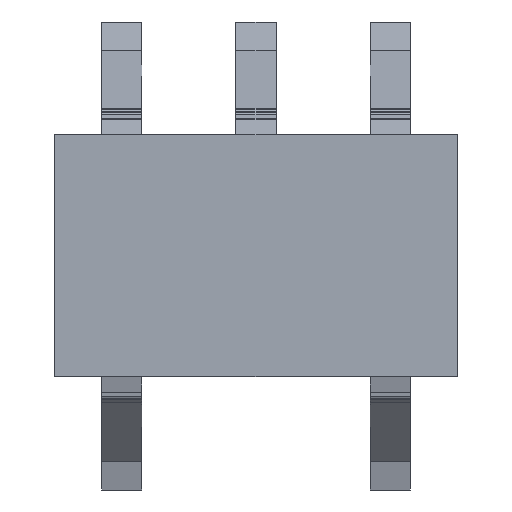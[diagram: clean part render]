
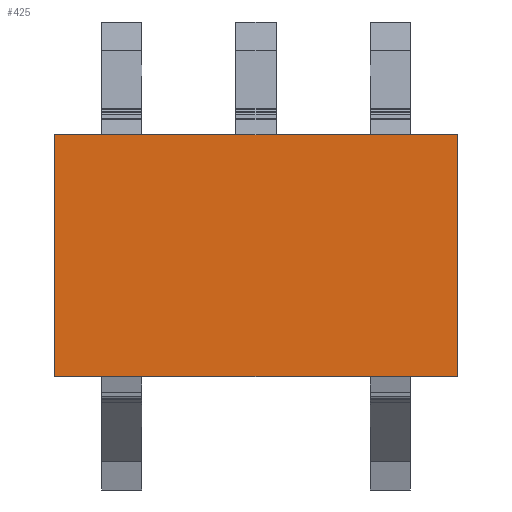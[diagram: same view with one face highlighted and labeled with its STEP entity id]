
A CAD part, top view. The second image highlights one B-rep face of the part: STEP entity #425.
In plain terms, the highlighted planar face has unit normal (0, 0, 1).
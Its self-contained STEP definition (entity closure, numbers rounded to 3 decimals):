
#24 = VERTEX_POINT('',#25);
#25 = CARTESIAN_POINT('',(0.,-0.9,1.3));
#32 = PLANE('',#33);
#33 = AXIS2_PLACEMENT_3D('',#34,#35,#36);
#34 = CARTESIAN_POINT('',(0.,-0.9,0.15));
#35 = DIRECTION('',(1.,0.,0.));
#36 = DIRECTION('',(0.,0.,1.));
#44 = PLANE('',#45);
#45 = AXIS2_PLACEMENT_3D('',#46,#47,#48);
#46 = CARTESIAN_POINT('',(0.,-0.9,0.15));
#47 = DIRECTION('',(0.,1.,0.));
#48 = DIRECTION('',(0.,0.,1.));
#85 = VERTEX_POINT('',#86);
#86 = CARTESIAN_POINT('',(0.,0.9,1.3));
#100 = PLANE('',#101);
#101 = AXIS2_PLACEMENT_3D('',#102,#103,#104);
#102 = CARTESIAN_POINT('',(0.,0.9,0.15));
#103 = DIRECTION('',(0.,1.,0.));
#104 = DIRECTION('',(0.,0.,1.));
#112 = EDGE_CURVE('',#24,#85,#113,.T.);
#113 = SURFACE_CURVE('',#114,(#118,#125),.PCURVE_S1.);
#114 = LINE('',#115,#116);
#115 = CARTESIAN_POINT('',(0.,-0.9,1.3));
#116 = VECTOR('',#117,1.);
#117 = DIRECTION('',(0.,1.,0.));
#118 = PCURVE('',#32,#119);
#119 = DEFINITIONAL_REPRESENTATION('',(#120),#124);
#120 = LINE('',#121,#122);
#121 = CARTESIAN_POINT('',(1.15,0.));
#122 = VECTOR('',#123,1.);
#123 = DIRECTION('',(0.,-1.));
#124 = ( GEOMETRIC_REPRESENTATION_CONTEXT(2) 
PARAMETRIC_REPRESENTATION_CONTEXT() REPRESENTATION_CONTEXT('2D SPACE',''
  ) );
#125 = PCURVE('',#126,#131);
#126 = PLANE('',#127);
#127 = AXIS2_PLACEMENT_3D('',#128,#129,#130);
#128 = CARTESIAN_POINT('',(0.,-0.9,1.3));
#129 = DIRECTION('',(0.,0.,1.));
#130 = DIRECTION('',(1.,0.,0.));
#131 = DEFINITIONAL_REPRESENTATION('',(#132),#136);
#132 = LINE('',#133,#134);
#133 = CARTESIAN_POINT('',(0.,0.));
#134 = VECTOR('',#135,1.);
#135 = DIRECTION('',(0.,1.));
#136 = ( GEOMETRIC_REPRESENTATION_CONTEXT(2) 
PARAMETRIC_REPRESENTATION_CONTEXT() REPRESENTATION_CONTEXT('2D SPACE',''
  ) );
#165 = EDGE_CURVE('',#24,#166,#168,.T.);
#166 = VERTEX_POINT('',#167);
#167 = CARTESIAN_POINT('',(3.,-0.9,1.3));
#168 = SURFACE_CURVE('',#169,(#173,#180),.PCURVE_S1.);
#169 = LINE('',#170,#171);
#170 = CARTESIAN_POINT('',(0.,-0.9,1.3));
#171 = VECTOR('',#172,1.);
#172 = DIRECTION('',(1.,0.,0.));
#173 = PCURVE('',#44,#174);
#174 = DEFINITIONAL_REPRESENTATION('',(#175),#179);
#175 = LINE('',#176,#177);
#176 = CARTESIAN_POINT('',(1.15,0.));
#177 = VECTOR('',#178,1.);
#178 = DIRECTION('',(0.,1.));
#179 = ( GEOMETRIC_REPRESENTATION_CONTEXT(2) 
PARAMETRIC_REPRESENTATION_CONTEXT() REPRESENTATION_CONTEXT('2D SPACE',''
  ) );
#180 = PCURVE('',#126,#181);
#181 = DEFINITIONAL_REPRESENTATION('',(#182),#186);
#182 = LINE('',#183,#184);
#183 = CARTESIAN_POINT('',(0.,0.));
#184 = VECTOR('',#185,1.);
#185 = DIRECTION('',(1.,0.));
#186 = ( GEOMETRIC_REPRESENTATION_CONTEXT(2) 
PARAMETRIC_REPRESENTATION_CONTEXT() REPRESENTATION_CONTEXT('2D SPACE',''
  ) );
#202 = PLANE('',#203);
#203 = AXIS2_PLACEMENT_3D('',#204,#205,#206);
#204 = CARTESIAN_POINT('',(3.,-0.9,0.15));
#205 = DIRECTION('',(1.,0.,0.));
#206 = DIRECTION('',(0.,0.,1.));
#425 = ADVANCED_FACE('',(#426),#126,.T.);
#426 = FACE_BOUND('',#427,.T.);
#427 = EDGE_LOOP('',(#428,#429,#430,#453));
#428 = ORIENTED_EDGE('',*,*,#112,.F.);
#429 = ORIENTED_EDGE('',*,*,#165,.T.);
#430 = ORIENTED_EDGE('',*,*,#431,.T.);
#431 = EDGE_CURVE('',#166,#432,#434,.T.);
#432 = VERTEX_POINT('',#433);
#433 = CARTESIAN_POINT('',(3.,0.9,1.3));
#434 = SURFACE_CURVE('',#435,(#439,#446),.PCURVE_S1.);
#435 = LINE('',#436,#437);
#436 = CARTESIAN_POINT('',(3.,-0.9,1.3));
#437 = VECTOR('',#438,1.);
#438 = DIRECTION('',(0.,1.,0.));
#439 = PCURVE('',#126,#440);
#440 = DEFINITIONAL_REPRESENTATION('',(#441),#445);
#441 = LINE('',#442,#443);
#442 = CARTESIAN_POINT('',(3.,0.));
#443 = VECTOR('',#444,1.);
#444 = DIRECTION('',(0.,1.));
#445 = ( GEOMETRIC_REPRESENTATION_CONTEXT(2) 
PARAMETRIC_REPRESENTATION_CONTEXT() REPRESENTATION_CONTEXT('2D SPACE',''
  ) );
#446 = PCURVE('',#202,#447);
#447 = DEFINITIONAL_REPRESENTATION('',(#448),#452);
#448 = LINE('',#449,#450);
#449 = CARTESIAN_POINT('',(1.15,0.));
#450 = VECTOR('',#451,1.);
#451 = DIRECTION('',(0.,-1.));
#452 = ( GEOMETRIC_REPRESENTATION_CONTEXT(2) 
PARAMETRIC_REPRESENTATION_CONTEXT() REPRESENTATION_CONTEXT('2D SPACE',''
  ) );
#453 = ORIENTED_EDGE('',*,*,#454,.F.);
#454 = EDGE_CURVE('',#85,#432,#455,.T.);
#455 = SURFACE_CURVE('',#456,(#460,#467),.PCURVE_S1.);
#456 = LINE('',#457,#458);
#457 = CARTESIAN_POINT('',(0.,0.9,1.3));
#458 = VECTOR('',#459,1.);
#459 = DIRECTION('',(1.,0.,0.));
#460 = PCURVE('',#126,#461);
#461 = DEFINITIONAL_REPRESENTATION('',(#462),#466);
#462 = LINE('',#463,#464);
#463 = CARTESIAN_POINT('',(0.,1.8));
#464 = VECTOR('',#465,1.);
#465 = DIRECTION('',(1.,0.));
#466 = ( GEOMETRIC_REPRESENTATION_CONTEXT(2) 
PARAMETRIC_REPRESENTATION_CONTEXT() REPRESENTATION_CONTEXT('2D SPACE',''
  ) );
#467 = PCURVE('',#100,#468);
#468 = DEFINITIONAL_REPRESENTATION('',(#469),#473);
#469 = LINE('',#470,#471);
#470 = CARTESIAN_POINT('',(1.15,0.));
#471 = VECTOR('',#472,1.);
#472 = DIRECTION('',(0.,1.));
#473 = ( GEOMETRIC_REPRESENTATION_CONTEXT(2) 
PARAMETRIC_REPRESENTATION_CONTEXT() REPRESENTATION_CONTEXT('2D SPACE',''
  ) );
